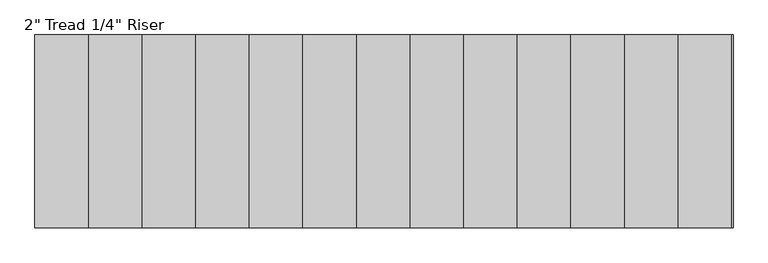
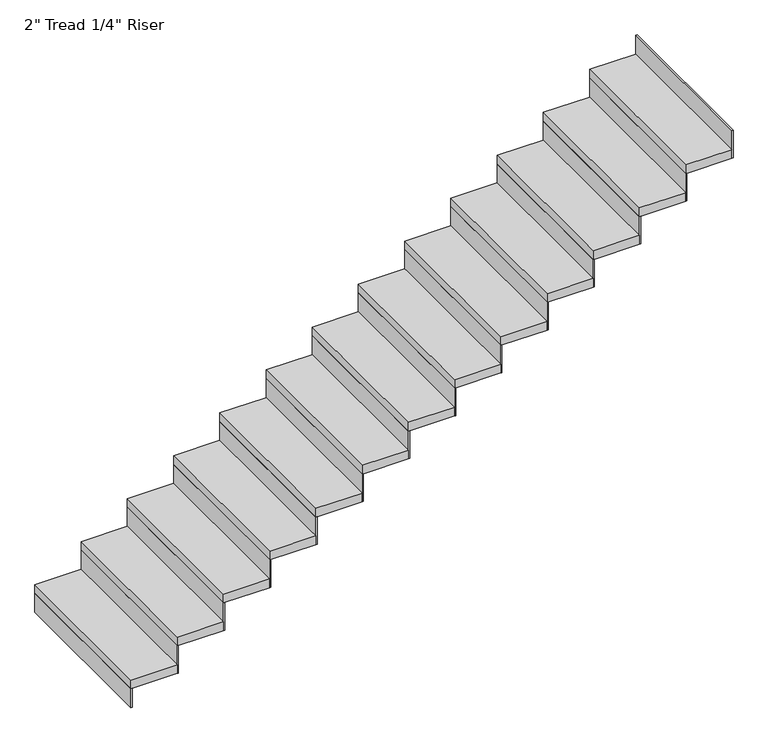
"""IFC4 building model written with IfcOpenShell, lengths in millimetres: stair flight geometry."""

from ifc_helpers import new_model, si_unit, frame, origin, origin_with_axes, place, context, project, spatial, polyline, outline, extrude, source, transform, mapped, element, save


def stair_flight_72f888fa(model_context):
    return source(origin(), model_context, "Body", "SweptSolid", [
        extrude(outline(polyline([(160194.7525866, -35593.481782), (160188.4025866, -35593.481782), (160188.4025866, -34679.081782), (160194.7525866, -34679.081782), (160194.7525866, -35593.481782)])), origin_with_axes(), (0.0, 0.0, 1.0), 109.6210526),
        extrude(outline(polyline([(160442.4025866, -34679.081782), (160442.4025866, -35593.481782), (160188.4025866, -35593.481782), (160188.4025866, -34679.081782), (160442.4025866, -34679.081782)])), frame((0.0, 0.0, 109.6210526), z_axis=(0.0, 0.0, 1.0), x_axis=(1.0, 0.0, 0.0)), (0.0, 0.0, 1.0), 50.8),
        extrude(outline(polyline([(160448.7525866, -35593.481782), (160442.4025866, -35593.481782), (160442.4025866, -34679.081782), (160448.7525866, -34679.081782), (160448.7525866, -35593.481782)])), frame((0.0, 0.0, 109.6210526), z_axis=(0.0, 0.0, 1.0), x_axis=(1.0, 0.0, 0.0)), (0.0, 0.0, 1.0), 160.4210526),
        extrude(outline(polyline([(160696.4025866, -34679.081782), (160696.4025866, -35593.481782), (160442.4025866, -35593.481782), (160442.4025866, -34679.081782), (160696.4025866, -34679.081782)])), frame((0.0, 0.0, 270.0421053), z_axis=(0.0, 0.0, 1.0), x_axis=(1.0, 0.0, 0.0)), (0.0, 0.0, 1.0), 50.8),
        extrude(outline(polyline([(160702.7525866, -35593.481782), (160696.4025866, -35593.481782), (160696.4025866, -34679.081782), (160702.7525866, -34679.081782), (160702.7525866, -35593.481782)])), frame((0.0, 0.0, 270.0421053), z_axis=(0.0, 0.0, 1.0), x_axis=(1.0, 0.0, 0.0)), (0.0, 0.0, 1.0), 160.4210526),
        extrude(outline(polyline([(160950.4025866, -34679.081782), (160950.4025866, -35593.481782), (160696.4025866, -35593.481782), (160696.4025866, -34679.081782), (160950.4025866, -34679.081782)])), frame((0.0, 0.0, 430.4631579), z_axis=(0.0, 0.0, 1.0), x_axis=(1.0, 0.0, 0.0)), (0.0, 0.0, 1.0), 50.8),
        extrude(outline(polyline([(160956.7525866, -35593.481782), (160950.4025866, -35593.481782), (160950.4025866, -34679.081782), (160956.7525866, -34679.081782), (160956.7525866, -35593.481782)])), frame((0.0, 0.0, 430.4631579), z_axis=(0.0, 0.0, 1.0), x_axis=(1.0, 0.0, 0.0)), (0.0, 0.0, 1.0), 160.4210526),
        extrude(outline(polyline([(161204.4025866, -34679.081782), (161204.4025866, -35593.481782), (160950.4025866, -35593.481782), (160950.4025866, -34679.081782), (161204.4025866, -34679.081782)])), frame((0.0, 0.0, 590.8842105), z_axis=(0.0, 0.0, 1.0), x_axis=(1.0, 0.0, 0.0)), (0.0, 0.0, 1.0), 50.8),
        extrude(outline(polyline([(161210.7525866, -35593.481782), (161204.4025866, -35593.481782), (161204.4025866, -34679.081782), (161210.7525866, -34679.081782), (161210.7525866, -35593.481782)])), frame((0.0, 0.0, 590.8842105), z_axis=(0.0, 0.0, 1.0), x_axis=(1.0, 0.0, 0.0)), (0.0, 0.0, 1.0), 160.4210526),
        extrude(outline(polyline([(161458.4025866, -34679.081782), (161458.4025866, -35593.481782), (161204.4025866, -35593.481782), (161204.4025866, -34679.081782), (161458.4025866, -34679.081782)])), frame((0.0, 0.0, 751.3052632), z_axis=(0.0, 0.0, 1.0), x_axis=(1.0, 0.0, 0.0)), (0.0, 0.0, 1.0), 50.8),
        extrude(outline(polyline([(161464.7525866, -35593.481782), (161458.4025866, -35593.481782), (161458.4025866, -34679.081782), (161464.7525866, -34679.081782), (161464.7525866, -35593.481782)])), frame((0.0, 0.0, 751.3052632), z_axis=(0.0, 0.0, 1.0), x_axis=(1.0, 0.0, 0.0)), (0.0, 0.0, 1.0), 160.4210526),
        extrude(outline(polyline([(161712.4025866, -34679.081782), (161712.4025866, -35593.481782), (161458.4025866, -35593.481782), (161458.4025866, -34679.081782), (161712.4025866, -34679.081782)])), frame((0.0, 0.0, 911.7263158), z_axis=(0.0, 0.0, 1.0), x_axis=(1.0, 0.0, 0.0)), (0.0, 0.0, 1.0), 50.8),
        extrude(outline(polyline([(161718.7525866, -35593.481782), (161712.4025866, -35593.481782), (161712.4025866, -34679.081782), (161718.7525866, -34679.081782), (161718.7525866, -35593.481782)])), frame((0.0, 0.0, 911.7263158), z_axis=(0.0, 0.0, 1.0), x_axis=(1.0, 0.0, 0.0)), (0.0, 0.0, 1.0), 160.4210526),
        extrude(outline(polyline([(161966.4025866, -34679.081782), (161966.4025866, -35593.481782), (161712.4025866, -35593.481782), (161712.4025866, -34679.081782), (161966.4025866, -34679.081782)])), frame((0.0, 0.0, 1072.1473684), z_axis=(0.0, 0.0, 1.0), x_axis=(1.0, 0.0, 0.0)), (0.0, 0.0, 1.0), 50.8),
        extrude(outline(polyline([(161972.7525866, -35593.481782), (161966.4025866, -35593.481782), (161966.4025866, -34679.081782), (161972.7525866, -34679.081782), (161972.7525866, -35593.481782)])), frame((0.0, 0.0, 1072.1473684), z_axis=(0.0, 0.0, 1.0), x_axis=(1.0, 0.0, 0.0)), (0.0, 0.0, 1.0), 160.4210526),
        extrude(outline(polyline([(162220.4025866, -34679.081782), (162220.4025866, -35593.481782), (161966.4025866, -35593.481782), (161966.4025866, -34679.081782), (162220.4025866, -34679.081782)])), frame((0.0, 0.0, 1232.5684211), z_axis=(0.0, 0.0, 1.0), x_axis=(1.0, 0.0, 0.0)), (0.0, 0.0, 1.0), 50.8),
        extrude(outline(polyline([(162226.7525866, -35593.481782), (162220.4025866, -35593.481782), (162220.4025866, -34679.081782), (162226.7525866, -34679.081782), (162226.7525866, -35593.481782)])), frame((0.0, 0.0, 1232.5684211), z_axis=(0.0, 0.0, 1.0), x_axis=(1.0, 0.0, 0.0)), (0.0, 0.0, 1.0), 160.4210526),
        extrude(outline(polyline([(162474.4025866, -34679.081782), (162474.4025866, -35593.481782), (162220.4025866, -35593.481782), (162220.4025866, -34679.081782), (162474.4025866, -34679.081782)])), frame((0.0, 0.0, 1392.9894737), z_axis=(0.0, 0.0, 1.0), x_axis=(1.0, 0.0, 0.0)), (0.0, 0.0, 1.0), 50.8),
        extrude(outline(polyline([(162480.7525866, -35593.481782), (162474.4025866, -35593.481782), (162474.4025866, -34679.081782), (162480.7525866, -34679.081782), (162480.7525866, -35593.481782)])), frame((0.0, 0.0, 1392.9894737), z_axis=(0.0, 0.0, 1.0), x_axis=(1.0, 0.0, 0.0)), (0.0, 0.0, 1.0), 160.4210526),
        extrude(outline(polyline([(162728.4025866, -34679.081782), (162728.4025866, -35593.481782), (162474.4025866, -35593.481782), (162474.4025866, -34679.081782), (162728.4025866, -34679.081782)])), frame((0.0, 0.0, 1553.4105263), z_axis=(0.0, 0.0, 1.0), x_axis=(1.0, 0.0, 0.0)), (0.0, 0.0, 1.0), 50.8),
        extrude(outline(polyline([(162734.7525866, -35593.481782), (162728.4025866, -35593.481782), (162728.4025866, -34679.081782), (162734.7525866, -34679.081782), (162734.7525866, -35593.481782)])), frame((0.0, 0.0, 1553.4105263), z_axis=(0.0, 0.0, 1.0), x_axis=(1.0, 0.0, 0.0)), (0.0, 0.0, 1.0), 160.4210526),
        extrude(outline(polyline([(162982.4025866, -34679.081782), (162982.4025866, -35593.481782), (162728.4025866, -35593.481782), (162728.4025866, -34679.081782), (162982.4025866, -34679.081782)])), frame((0.0, 0.0, 1713.8315789), z_axis=(0.0, 0.0, 1.0), x_axis=(1.0, 0.0, 0.0)), (0.0, 0.0, 1.0), 50.8),
        extrude(outline(polyline([(162988.7525866, -35593.481782), (162982.4025866, -35593.481782), (162982.4025866, -34679.081782), (162988.7525866, -34679.081782), (162988.7525866, -35593.481782)])), frame((0.0, 0.0, 1713.8315789), z_axis=(0.0, 0.0, 1.0), x_axis=(1.0, 0.0, 0.0)), (0.0, 0.0, 1.0), 160.4210526),
        extrude(outline(polyline([(163236.4025866, -34679.081782), (163236.4025866, -35593.481782), (162982.4025866, -35593.481782), (162982.4025866, -34679.081782), (163236.4025866, -34679.081782)])), frame((0.0, 0.0, 1874.2526316), z_axis=(0.0, 0.0, 1.0), x_axis=(1.0, 0.0, 0.0)), (0.0, 0.0, 1.0), 50.8),
        extrude(outline(polyline([(163242.7525866, -35593.481782), (163236.4025866, -35593.481782), (163236.4025866, -34679.081782), (163242.7525866, -34679.081782), (163242.7525866, -35593.481782)])), frame((0.0, 0.0, 1874.2526316), z_axis=(0.0, 0.0, 1.0), x_axis=(1.0, 0.0, 0.0)), (0.0, 0.0, 1.0), 160.4210526),
        extrude(outline(polyline([(163496.7525866, -35593.481782), (163490.4025866, -35593.481782), (163490.4025866, -34679.081782), (163496.7525866, -34679.081782), (163496.7525866, -35593.481782)])), frame((0.0, 0.0, 2034.6736842), z_axis=(0.0, 0.0, 1.0), x_axis=(1.0, 0.0, 0.0)), (0.0, 0.0, 1.0), 160.4210526),
        extrude(outline(polyline([(163490.4025866, -34679.081782), (163490.4025866, -35593.481782), (163236.4025866, -35593.481782), (163236.4025866, -34679.081782), (163490.4025866, -34679.081782)])), frame((0.0, 0.0, 2034.6736842), z_axis=(0.0, 0.0, 1.0), x_axis=(1.0, 0.0, 0.0)), (0.0, 0.0, 1.0), 50.8),
    ])


if __name__ == "__main__":
    model = new_model("IFC4")
    model_context = context("Model", 3, world=origin())
    ifc_project = project(units=[si_unit("LENGTHUNIT", "METRE", prefix="MILLI")], contexts=[model_context])
    site = spatial("IfcSite", under=ifc_project)
    building = spatial("IfcBuilding", under=site)
    placement = place(None, origin())
    stair_flight_shape = stair_flight_72f888fa(model_context)
    element("IfcStairFlight", 1, ObjectType="2\" Tread 1/4\" Riser", at=placement, inside=building, context=model_context, shape_type="MappedRepresentation", body=[
        mapped(stair_flight_shape, transform((0.0, 0.0, 0.0), x_axis=(1.0, 0.0, 0.0), y_axis=(0.0, 1.0, 0.0), z_axis=(0.0, 0.0, 1.0))),
    ])
    save(model, "model.ifc")
